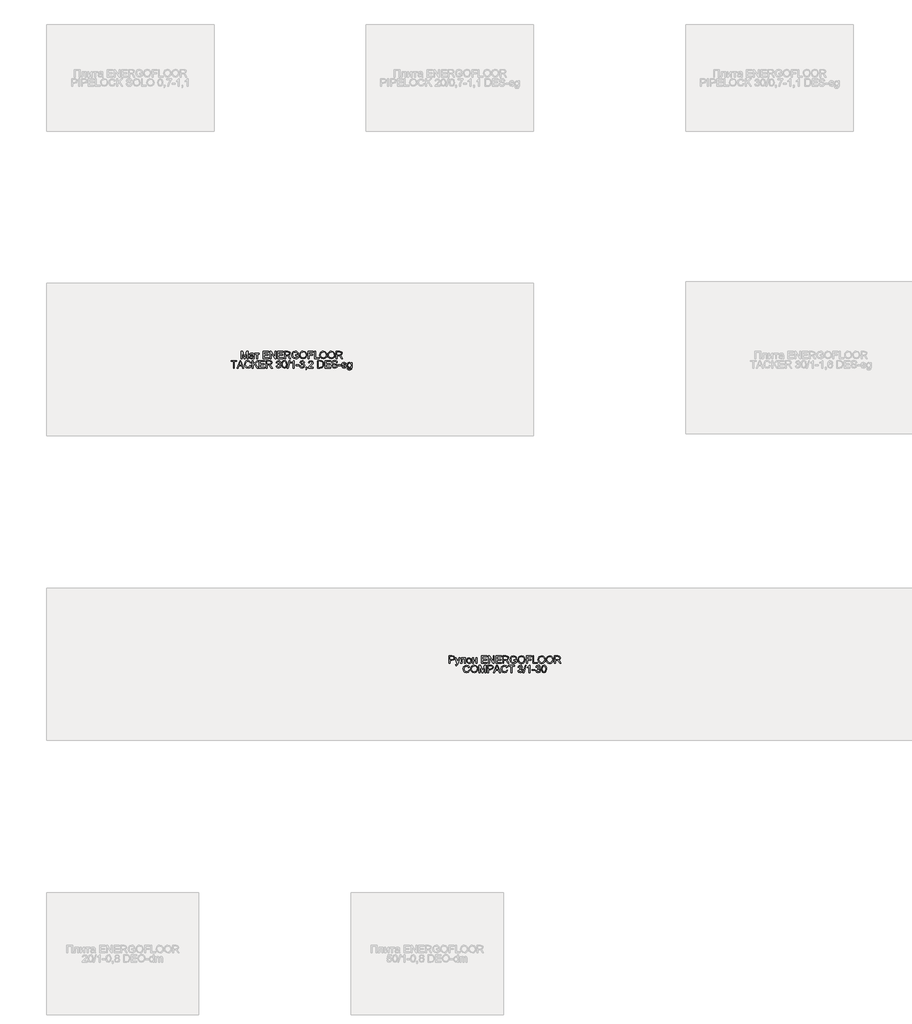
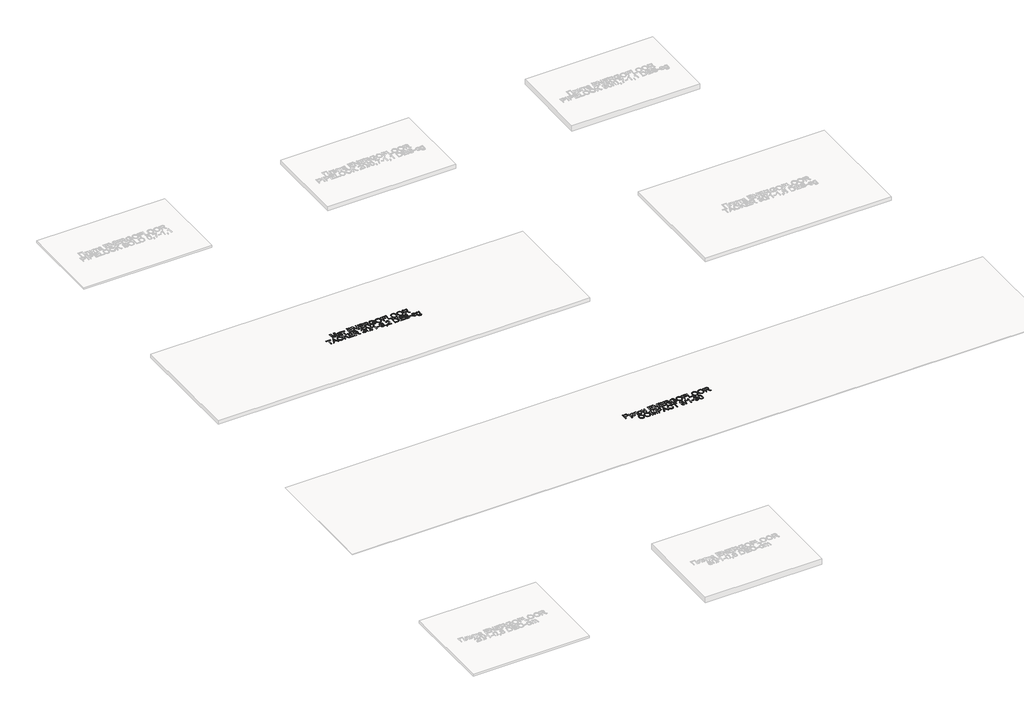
# One storey, part 3 of 7: 2 proxies.
"""IFC4 building model written with IfcOpenShell, lengths in millimetres."""

from ifc_helpers import new_model, si_unit, origin, origin_with_axes, place, context, project, spatial, polyline, outline, extrude, element, save

model = new_model("IFC4")

# Units and contexts
model_context = context("Model", 3, world=origin())
ifc_project = project(units=[si_unit("LENGTHUNIT", "METRE", prefix="MILLI")], contexts=[model_context])

# Site, building, storey
site = spatial("IfcSite", under=ifc_project)
building = spatial("IfcBuilding", under=site)
storey = spatial("IfcBuildingStorey", under=building, Name="Уровень 1", Elevation=0.0)

# Proxies
placement = place(None, origin())
element("IfcBuildingElementProxy", 1, Name="Текст модели ROLS ISOMARKET", ObjectType="Текст модели ROLS ISOMARKET", at=placement, inside=storey, context=model_context, shape_type="SweptSolid", body=[
    extrude(outline(polyline([(-15837.3501564, 9607.5452418), (-15837.3501564, 9656.776011), (-15826.7612141, 9656.776011), (-15816.6890987, 9622.0764918), (-15814.6578487, 9614.8288956), (-15812.4583294, 9622.6774533), (-15802.5544833, 9656.776011), (-15791.965541, 9656.776011), (-15791.965541, 9607.5452418), (-15798.1193871, 9607.5452418), (-15798.1193871, 9650.6221648), (-15810.4871756, 9607.5452418), (-15818.8285218, 9607.5452418), (-15831.1963102, 9650.6221648), (-15831.1963102, 9607.5452418), (-15837.3501564, 9607.5452418)])), origin_with_axes(), (0.0, 0.0, 1.0), 2.0),
    extrude(outline(polyline([(-15758.8886179, 9612.1606264), (-15764.856166, 9607.9899533), (-15771.4487141, 9606.776011), (-15780.3850121, 9609.6966841), (-15783.5040025, 9617.1606264), (-15782.3261179, 9622.0284148), (-15779.231166, 9625.5620687), (-15774.9222718, 9627.5812994), (-15769.5977525, 9628.5067802), (-15758.9246756, 9630.6221648), (-15760.5833294, 9636.5356264), (-15767.3862141, 9638.3144725), (-15773.6121756, 9637.1305783), (-15776.5809256, 9632.9298571), (-15782.7347718, 9633.6990879), (-15780.0725121, 9639.7087033), (-15774.7119352, 9643.2303379), (-15766.5929448, 9644.4683187), (-15759.1350121, 9643.3745687), (-15754.9222718, 9640.6281744), (-15753.0352525, 9636.4514918), (-15752.7347718, 9631.0668764), (-15752.7347718, 9623.4106264), (-15752.4222718, 9612.7195206), (-15751.1963102, 9607.5452418), (-15757.3501564, 9607.5452418), (-15758.8886179, 9612.1606264)]), holes=[polyline([(-15758.8886179, 9624.4683187), (-15768.8165025, 9622.5812994), (-15774.1109737, 9621.5837033), (-15776.5088102, 9619.9611071), (-15777.3501564, 9617.5933187), (-15775.5172237, 9614.2639918), (-15770.1386179, 9612.9298571), (-15763.9126564, 9614.4022129), (-15759.8982333, 9617.9659148), (-15758.9246756, 9622.7255302), (-15758.8886179, 9624.4683187)])]), origin_with_axes(), (0.0, 0.0, 1.0), 2.0),
    extrude(outline(polyline([(-15747.3501564, 9643.6990879), (-15718.1193871, 9643.6990879), (-15718.1193871, 9637.5452418), (-15729.6578487, 9637.5452418), (-15729.6578487, 9607.5452418), (-15735.8116948, 9607.5452418), (-15735.8116948, 9637.5452418), (-15747.3501564, 9637.5452418), (-15747.3501564, 9643.6990879)])), origin_with_axes(), (0.0, 0.0, 1.0), 2.0),
    extrude(outline(polyline([(-15692.7347718, 9607.5452418), (-15692.7347718, 9656.776011), (-15657.3501564, 9656.776011), (-15657.3501564, 9650.6221648), (-15686.5809256, 9650.6221648), (-15686.5809256, 9636.0067802), (-15658.8886179, 9636.0067802), (-15658.8886179, 9629.8529341), (-15686.5809256, 9629.8529341), (-15686.5809256, 9613.6990879), (-15656.5809256, 9613.6990879), (-15656.5809256, 9607.5452418), (-15692.7347718, 9607.5452418)])), origin_with_axes(), (0.0, 0.0, 1.0), 2.0),
    extrude(outline(polyline([(-15647.3501564, 9607.5452418), (-15647.3501564, 9656.776011), (-15640.7636179, 9656.776011), (-15615.0424641, 9617.7736071), (-15615.0424641, 9656.776011), (-15608.8886179, 9656.776011), (-15608.8886179, 9607.5452418), (-15615.4751564, 9607.5452418), (-15641.1963102, 9646.5596648), (-15641.1963102, 9607.5452418), (-15647.3501564, 9607.5452418)])), origin_with_axes(), (0.0, 0.0, 1.0), 2.0),
    extrude(outline(polyline([(-15598.1193871, 9607.5452418), (-15598.1193871, 9656.776011), (-15562.7347718, 9656.776011), (-15562.7347718, 9650.6221648), (-15591.965541, 9650.6221648), (-15591.965541, 9636.0067802), (-15564.2732333, 9636.0067802), (-15564.2732333, 9629.8529341), (-15591.965541, 9629.8529341), (-15591.965541, 9613.6990879), (-15561.965541, 9613.6990879), (-15561.965541, 9607.5452418), (-15598.1193871, 9607.5452418)])), origin_with_axes(), (0.0, 0.0, 1.0), 2.0),
    extrude(outline(polyline([(-15552.7347718, 9607.5452418), (-15552.7347718, 9656.776011), (-15531.5208294, 9656.776011), (-15521.6710698, 9655.447886), (-15516.2864544, 9650.7483668), (-15514.2732333, 9643.3024533), (-15517.6085698, 9634.432261), (-15527.9150602, 9629.8529341), (-15524.4174641, 9627.2207225), (-15519.4294833, 9620.8865879), (-15511.2203487, 9607.5452418), (-15518.371791, 9607.5452418), (-15524.778041, 9617.7495687), (-15529.4054448, 9624.5043764), (-15532.6566468, 9627.6954821), (-15535.5833294, 9628.8673571), (-15539.153041, 9629.0837033), (-15546.5809256, 9629.0837033), (-15546.5809256, 9607.5452418), (-15552.7347718, 9607.5452418)]), holes=[polyline([(-15546.5809256, 9635.2375494), (-15532.8068871, 9635.2375494), (-15525.7816468, 9636.1089437), (-15521.7912621, 9638.8974052), (-15520.4270794, 9643.0740879), (-15523.0292429, 9648.494761), (-15531.2564064, 9650.6221648), (-15546.5809256, 9650.6221648), (-15546.5809256, 9635.2375494)])]), origin_with_axes(), (0.0, 0.0, 1.0), 2.0),
    extrude(outline(polyline([(-15480.4270794, 9626.776011), (-15480.4270794, 9632.9298571), (-15460.4270794, 9632.9298571), (-15460.4270794, 9614.5284148), (-15470.3008775, 9608.7231264), (-15480.7395794, 9606.776011), (-15493.8826083, 9609.8709629), (-15502.8008775, 9618.8312994), (-15505.8116948, 9631.9202418), (-15502.8128968, 9645.3036552), (-15494.1890987, 9654.5284148), (-15481.2323679, 9657.5452418), (-15471.6049641, 9655.7964437), (-15464.856166, 9650.9286552), (-15461.1362141, 9642.7856264), (-15466.809291, 9641.1870687), (-15469.6157814, 9646.8781744), (-15474.4114544, 9650.1594244), (-15481.3285218, 9651.3913956), (-15489.2071275, 9650.0632706), (-15494.5677044, 9646.5776937), (-15497.7347718, 9641.8361071), (-15499.6578487, 9632.1726456), (-15497.3441468, 9621.4454821), (-15490.6133775, 9615.0272129), (-15481.2323679, 9612.9298571), (-15472.8128968, 9614.510386), (-15466.5809256, 9617.8817802), (-15466.5809256, 9626.776011), (-15480.4270794, 9626.776011)])), origin_with_axes(), (0.0, 0.0, 1.0), 2.0),
    extrude(outline(polyline([(-15452.7347718, 9631.5115879), (-15451.0941468, 9642.3980062), (-15446.1722718, 9650.6341841), (-15438.6572477, 9655.8174773), (-15429.2371756, 9657.5452418), (-15416.9895794, 9654.3000494), (-15408.6722718, 9645.2495687), (-15405.8116948, 9632.0764918), (-15408.8225121, 9618.7231264), (-15417.356166, 9609.8048571), (-15429.2732333, 9606.776011), (-15441.653041, 9610.1233668), (-15449.9222718, 9619.2579821), (-15452.7347718, 9631.5115879)]), holes=[polyline([(-15446.5809256, 9631.4514918), (-15441.6590506, 9617.8817802), (-15429.309291, 9612.9298571), (-15416.8513583, 9617.9298571), (-15411.965541, 9632.1245687), (-15414.0568871, 9642.2808187), (-15420.168666, 9649.0055783), (-15429.2011179, 9651.3913956), (-15441.4487141, 9646.7940398), (-15445.2978727, 9640.6597249), (-15446.5809256, 9631.4514918)])]), origin_with_axes(), (0.0, 0.0, 1.0), 2.0),
    extrude(outline(polyline([(-15397.3501564, 9607.5452418), (-15397.3501564, 9656.776011), (-15364.2732333, 9656.776011), (-15364.2732333, 9650.6221648), (-15391.1963102, 9650.6221648), (-15391.1963102, 9636.0067802), (-15368.1193871, 9636.0067802), (-15368.1193871, 9629.8529341), (-15391.1963102, 9629.8529341), (-15391.1963102, 9607.5452418), (-15397.3501564, 9607.5452418)])), origin_with_axes(), (0.0, 0.0, 1.0), 2.0),
    extrude(outline(polyline([(-15355.8116948, 9607.5452418), (-15355.8116948, 9656.776011), (-15349.6578487, 9656.776011), (-15349.6578487, 9613.6990879), (-15325.0424641, 9613.6990879), (-15325.0424641, 9607.5452418), (-15355.8116948, 9607.5452418)])), origin_with_axes(), (0.0, 0.0, 1.0), 2.0),
    extrude(outline(polyline([(-15320.4270794, 9631.5115879), (-15318.7864544, 9642.3980062), (-15313.8645794, 9650.6341841), (-15306.3495554, 9655.8174773), (-15296.9294833, 9657.5452418), (-15284.6818871, 9654.3000494), (-15276.3645794, 9645.2495687), (-15273.5040025, 9632.0764918), (-15276.5148198, 9618.7231264), (-15285.0484737, 9609.8048571), (-15296.965541, 9606.776011), (-15309.3453487, 9610.1233668), (-15317.6145794, 9619.2579821), (-15320.4270794, 9631.5115879)]), holes=[polyline([(-15314.2732333, 9631.4514918), (-15309.3513583, 9617.8817802), (-15297.0015987, 9612.9298571), (-15284.543666, 9617.9298571), (-15279.6578487, 9632.1245687), (-15281.7491948, 9642.2808187), (-15287.8609737, 9649.0055783), (-15296.8934256, 9651.3913956), (-15309.1410218, 9646.7940398), (-15312.9901804, 9640.6597249), (-15314.2732333, 9631.4514918)])]), origin_with_axes(), (0.0, 0.0, 1.0), 2.0),
    extrude(outline(polyline([(-15267.3501564, 9631.5115879), (-15265.7095314, 9642.3980062), (-15260.7876564, 9650.6341841), (-15253.2726323, 9655.8174773), (-15243.8525602, 9657.5452418), (-15231.6049641, 9654.3000494), (-15223.2876564, 9645.2495687), (-15220.4270794, 9632.0764918), (-15223.4378968, 9618.7231264), (-15231.9715506, 9609.8048571), (-15243.8886179, 9606.776011), (-15256.2684256, 9610.1233668), (-15264.5376564, 9619.2579821), (-15267.3501564, 9631.5115879)]), holes=[polyline([(-15261.1963102, 9631.4514918), (-15256.2744352, 9617.8817802), (-15243.9246756, 9612.9298571), (-15231.4667429, 9617.9298571), (-15226.5809256, 9632.1245687), (-15228.6722718, 9642.2808187), (-15234.7840506, 9649.0055783), (-15243.8165025, 9651.3913956), (-15256.0640987, 9646.7940398), (-15259.9132573, 9640.6597249), (-15261.1963102, 9631.4514918)])]), origin_with_axes(), (0.0, 0.0, 1.0), 2.0),
    extrude(outline(polyline([(-15211.965541, 9607.5452418), (-15211.965541, 9656.776011), (-15190.7515987, 9656.776011), (-15180.9018391, 9655.447886), (-15175.5172237, 9650.7483668), (-15173.5040025, 9643.3024533), (-15176.8393391, 9634.432261), (-15187.1458294, 9629.8529341), (-15183.6482333, 9627.2207225), (-15178.6602525, 9620.8865879), (-15170.4511179, 9607.5452418), (-15177.6025602, 9607.5452418), (-15184.0088102, 9617.7495687), (-15188.6362141, 9624.5043764), (-15191.887416, 9627.6954821), (-15194.8140987, 9628.8673571), (-15198.3838102, 9629.0837033), (-15205.8116948, 9629.0837033), (-15205.8116948, 9607.5452418), (-15211.965541, 9607.5452418)]), holes=[polyline([(-15205.8116948, 9635.2375494), (-15192.0376564, 9635.2375494), (-15185.012416, 9636.1089437), (-15181.0220314, 9638.8974052), (-15179.6578487, 9643.0740879), (-15182.2600121, 9648.494761), (-15190.4871756, 9650.6221648), (-15205.8116948, 9650.6221648), (-15205.8116948, 9635.2375494)])]), origin_with_axes(), (0.0, 0.0, 1.0), 2.0),
    extrude(outline(polyline([(-15887.7347718, 9546.776011), (-15887.7347718, 9589.8529341), (-15903.8886179, 9589.8529341), (-15903.8886179, 9596.0067802), (-15865.4270794, 9596.0067802), (-15865.4270794, 9589.8529341), (-15881.5809256, 9589.8529341), (-15881.5809256, 9546.776011), (-15887.7347718, 9546.776011)])), origin_with_axes(), (0.0, 0.0, 1.0), 2.0),
    extrude(outline(polyline([(-15864.2371756, 9546.776011), (-15844.5857333, 9596.0067802), (-15839.3453487, 9596.0067802), (-15819.6939064, 9546.776011), (-15826.1963102, 9546.776011), (-15831.8333294, 9562.1606264), (-15852.1097718, 9562.1606264), (-15857.7347718, 9546.776011), (-15864.2371756, 9546.776011)]), holes=[polyline([(-15849.8501564, 9568.3144725), (-15834.0809256, 9568.3144725), (-15838.5160218, 9580.4178379), (-15841.965541, 9589.8529341), (-15845.0304448, 9581.4755302), (-15849.8501564, 9568.3144725)])]), origin_with_axes(), (0.0, 0.0, 1.0), 2.0),
    extrude(outline(polyline([(-15778.5040025, 9564.276011), (-15772.3501564, 9562.6894725), (-15779.6458294, 9550.2796168), (-15792.5304448, 9546.0067802), (-15805.3369352, 9549.2399533), (-15812.8489544, 9558.6029341), (-15815.4270794, 9571.7639918), (-15812.512416, 9585.1413956), (-15804.2251564, 9593.8132706), (-15792.3982333, 9596.776011), (-15780.0725121, 9592.9418764), (-15773.1193871, 9582.1486071), (-15779.2732333, 9580.682261), (-15784.3213102, 9588.2483668), (-15792.6386179, 9590.6221648), (-15802.2660218, 9587.9899533), (-15807.7047237, 9580.9226456), (-15809.2732333, 9571.776011), (-15807.4162621, 9561.1750494), (-15801.6350121, 9554.4022129), (-15793.1434256, 9552.1606264), (-15783.7263583, 9555.213511), (-15778.5040025, 9564.276011)])), origin_with_axes(), (0.0, 0.0, 1.0), 2.0),
    extrude(outline(polyline([(-15763.8886179, 9546.776011), (-15763.8886179, 9596.0067802), (-15757.7347718, 9596.0067802), (-15757.7347718, 9571.9082225), (-15732.4943871, 9596.0067802), (-15723.8886179, 9596.0067802), (-15745.0785218, 9575.7663956), (-15723.1193871, 9546.776011), (-15730.6434256, 9546.776011), (-15749.4415025, 9571.6077418), (-15757.7347718, 9563.6990879), (-15757.7347718, 9546.776011), (-15763.8886179, 9546.776011)])), origin_with_axes(), (0.0, 0.0, 1.0), 2.0),
    extrude(outline(polyline([(-15718.5040025, 9546.776011), (-15718.5040025, 9596.0067802), (-15683.1193871, 9596.0067802), (-15683.1193871, 9589.8529341), (-15712.3501564, 9589.8529341), (-15712.3501564, 9575.2375494), (-15684.6578487, 9575.2375494), (-15684.6578487, 9569.0837033), (-15712.3501564, 9569.0837033), (-15712.3501564, 9552.9298571), (-15682.3501564, 9552.9298571), (-15682.3501564, 9546.776011), (-15718.5040025, 9546.776011)])), origin_with_axes(), (0.0, 0.0, 1.0), 2.0),
    extrude(outline(polyline([(-15673.1193871, 9546.776011), (-15673.1193871, 9596.0067802), (-15651.9054448, 9596.0067802), (-15642.0556852, 9594.6786552), (-15636.6710698, 9589.979136), (-15634.6578487, 9582.5332225), (-15637.9931852, 9573.6630302), (-15648.2996756, 9569.0837033), (-15644.8020794, 9566.4514918), (-15639.8140987, 9560.1173571), (-15631.6049641, 9546.776011), (-15638.7564064, 9546.776011), (-15645.1626564, 9556.9803379), (-15649.7900602, 9563.7351456), (-15653.0412621, 9566.9262514), (-15655.9679448, 9568.0981264), (-15659.5376564, 9568.3144725), (-15666.965541, 9568.3144725), (-15666.965541, 9546.776011), (-15673.1193871, 9546.776011)]), holes=[polyline([(-15666.965541, 9574.4683187), (-15653.1915025, 9574.4683187), (-15646.1662621, 9575.3397129), (-15642.1758775, 9578.1281744), (-15640.8116948, 9582.3048571), (-15643.4138583, 9587.7255302), (-15651.6410218, 9589.8529341), (-15666.965541, 9589.8529341), (-15666.965541, 9574.4683187)])]), origin_with_axes(), (0.0, 0.0, 1.0), 2.0),
    extrude(outline(polyline([(-15606.965541, 9559.8529341), (-15600.8116948, 9560.6221648), (-15597.4162621, 9554.1437994), (-15591.0640987, 9552.1606264), (-15583.5881371, 9554.8889918), (-15580.8116948, 9561.6437994), (-15583.5640987, 9568.0079821), (-15590.559291, 9570.526011), (-15594.8741948, 9569.8529341), (-15594.1890987, 9576.0067802), (-15586.2203487, 9577.7014918), (-15583.1193871, 9583.1341841), (-15585.3669833, 9587.947886), (-15591.1602525, 9589.8529341), (-15597.0256371, 9587.9298571), (-15600.0424641, 9582.1606264), (-15606.1963102, 9582.9298571), (-15601.1602525, 9592.5812994), (-15591.3765987, 9596.0067802), (-15583.9547237, 9594.3180783), (-15578.762416, 9589.7026937), (-15576.965541, 9583.494761), (-15578.6722718, 9577.8216841), (-15583.7203487, 9573.7471648), (-15577.0136179, 9569.5404341), (-15574.6578487, 9561.5356264), (-15579.3693871, 9550.526011), (-15591.2804448, 9546.0067802), (-15602.0737141, 9549.8649533), (-15606.965541, 9559.8529341)])), origin_with_axes(), (0.0, 0.0, 1.0), 2.0),
    extrude(outline(polyline([(-15569.2732333, 9570.994761), (-15567.4643391, 9585.1594244), (-15562.0917429, 9593.3264918), (-15553.1193871, 9596.0067802), (-15545.9318871, 9594.4202418), (-15540.9679448, 9589.8469244), (-15538.0833294, 9582.5632706), (-15536.965541, 9570.994761), (-15538.7564064, 9556.8901937), (-15544.1109737, 9548.7050975), (-15553.1193871, 9546.0067802), (-15564.3693871, 9550.6942802), (-15568.0472718, 9559.0206023), (-15569.2732333, 9570.994761)]), holes=[polyline([(-15563.1193871, 9571.0067802), (-15560.2347718, 9555.7243283), (-15553.1193871, 9552.1606264), (-15546.0040025, 9555.7363475), (-15543.1193871, 9571.0067802), (-15545.9078487, 9586.1149533), (-15553.1915025, 9589.8529341), (-15560.1386179, 9586.5596648), (-15563.1193871, 9571.0067802)])]), origin_with_axes(), (0.0, 0.0, 1.0), 2.0),
    extrude(outline(polyline([(-15534.6578487, 9546.776011), (-15520.8116948, 9596.0067802), (-15515.2588102, 9596.0067802), (-15529.1049641, 9546.776011), (-15534.6578487, 9546.776011)])), origin_with_axes(), (0.0, 0.0, 1.0), 2.0),
    extrude(outline(polyline([(-15489.2732333, 9546.776011), (-15495.4270794, 9546.776011), (-15495.4270794, 9585.1413956), (-15501.2564064, 9580.9887514), (-15507.7347718, 9577.8817802), (-15507.7347718, 9583.6990879), (-15498.7143391, 9589.4562994), (-15493.2395794, 9596.0067802), (-15489.2732333, 9596.0067802), (-15489.2732333, 9546.776011)])), origin_with_axes(), (0.0, 0.0, 1.0), 2.0),
    extrude(outline(polyline([(-15476.1963102, 9561.3913956), (-15476.1963102, 9567.5452418), (-15456.965541, 9567.5452418), (-15456.965541, 9561.3913956), (-15476.1963102, 9561.3913956)])), origin_with_axes(), (0.0, 0.0, 1.0), 2.0),
    extrude(outline(polyline([(-15451.5809256, 9559.8529341), (-15445.4270794, 9560.6221648), (-15442.0316468, 9554.1437994), (-15435.6794833, 9552.1606264), (-15428.2035218, 9554.8889918), (-15425.4270794, 9561.6437994), (-15428.1794833, 9568.0079821), (-15435.1746756, 9570.526011), (-15439.4895794, 9569.8529341), (-15438.8044833, 9576.0067802), (-15430.8357333, 9577.7014918), (-15427.7347718, 9583.1341841), (-15429.9823679, 9587.947886), (-15435.7756371, 9589.8529341), (-15441.6410218, 9587.9298571), (-15444.6578487, 9582.1606264), (-15450.8116948, 9582.9298571), (-15445.7756371, 9592.5812994), (-15435.9919833, 9596.0067802), (-15428.5701083, 9594.3180783), (-15423.3778006, 9589.7026937), (-15421.5809256, 9583.494761), (-15423.2876564, 9577.8216841), (-15428.3357333, 9573.7471648), (-15421.6290025, 9569.5404341), (-15419.2732333, 9561.5356264), (-15423.9847718, 9550.526011), (-15435.8958294, 9546.0067802), (-15446.6890987, 9549.8649533), (-15451.5809256, 9559.8529341)])), origin_with_axes(), (0.0, 0.0, 1.0), 2.0),
    extrude(outline(polyline([(-15410.8116948, 9546.776011), (-15410.8116948, 9552.9298571), (-15404.6578487, 9552.9298571), (-15404.6578487, 9546.776011), (-15405.7636179, 9540.4839437), (-15409.2732333, 9536.776011), (-15410.8116948, 9539.0837033), (-15408.5520794, 9541.7399533), (-15407.746791, 9546.776011), (-15410.8116948, 9546.776011)])), origin_with_axes(), (0.0, 0.0, 1.0), 2.0),
    extrude(outline(polyline([(-15363.1193871, 9552.9298571), (-15363.1193871, 9546.776011), (-15395.4270794, 9546.776011), (-15394.7660218, 9551.0187994), (-15391.028041, 9557.5512514), (-15383.3237141, 9564.6846648), (-15372.6987141, 9574.9370687), (-15370.0424641, 9581.9082225), (-15372.5484737, 9587.5512514), (-15379.0929448, 9589.8529341), (-15385.9138583, 9587.6053379), (-15388.5040025, 9581.3913956), (-15394.6578487, 9582.1606264), (-15389.9403006, 9592.4611071), (-15378.9607333, 9596.0067802), (-15367.9451083, 9592.0644725), (-15363.8886179, 9582.2808187), (-15364.9823679, 9576.4454821), (-15368.6181852, 9570.4118283), (-15377.434291, 9561.9803379), (-15384.5136179, 9556.0608668), (-15387.2900602, 9552.9298571), (-15363.1193871, 9552.9298571)])), origin_with_axes(), (0.0, 0.0, 1.0), 2.0),
    extrude(outline(polyline([(-15335.4270794, 9546.776011), (-15335.4270794, 9596.0067802), (-15318.4439064, 9596.0067802), (-15309.6578487, 9595.2976456), (-15302.4222718, 9591.776011), (-15296.5929448, 9583.3625494), (-15294.6578487, 9571.6558187), (-15295.9679448, 9561.7219244), (-15299.3333294, 9554.5524533), (-15303.8285218, 9550.0873091), (-15309.7119352, 9547.6173571), (-15317.6265987, 9546.776011), (-15335.4270794, 9546.776011)]), holes=[polyline([(-15329.2732333, 9552.9298571), (-15318.3838102, 9552.9298571), (-15310.4631371, 9553.8192802), (-15305.8958294, 9556.3312994), (-15302.1518391, 9562.4430783), (-15300.8116948, 9571.7519725), (-15303.4378968, 9583.4106264), (-15309.8261179, 9588.8673571), (-15318.5520794, 9589.8529341), (-15329.2732333, 9589.8529341), (-15329.2732333, 9552.9298571)])]), origin_with_axes(), (0.0, 0.0, 1.0), 2.0),
    extrude(outline(polyline([(-15286.1963102, 9546.776011), (-15286.1963102, 9596.0067802), (-15250.8116948, 9596.0067802), (-15250.8116948, 9589.8529341), (-15280.0424641, 9589.8529341), (-15280.0424641, 9575.2375494), (-15252.3501564, 9575.2375494), (-15252.3501564, 9569.0837033), (-15280.0424641, 9569.0837033), (-15280.0424641, 9552.9298571), (-15250.0424641, 9552.9298571), (-15250.0424641, 9546.776011), (-15286.1963102, 9546.776011)])), origin_with_axes(), (0.0, 0.0, 1.0), 2.0),
    extrude(outline(polyline([(-15243.1193871, 9563.6990879), (-15236.965541, 9563.6990879), (-15234.9823679, 9557.5392321), (-15230.1386179, 9553.6450014), (-15222.7588102, 9552.1606264), (-15216.3285218, 9553.2844244), (-15212.1758775, 9556.3733668), (-15210.8116948, 9560.5019725), (-15211.8333294, 9564.3421168), (-15216.0160218, 9567.1365879), (-15224.9763583, 9569.4863475), (-15234.621791, 9572.5212033), (-15239.856166, 9577.1005302), (-15241.5809256, 9583.2183187), (-15239.4475121, 9590.1834629), (-15233.215541, 9595.0993283), (-15224.0929448, 9596.776011), (-15214.3573679, 9595.0212033), (-15207.8669833, 9589.8649533), (-15205.4270794, 9582.1606264), (-15211.5809256, 9582.1606264), (-15215.0665025, 9588.4827418), (-15223.8525602, 9590.6221648), (-15232.6626564, 9588.5067802), (-15235.4270794, 9583.3986071), (-15233.4679448, 9579.1317802), (-15223.4198679, 9575.6942802), (-15212.5304448, 9572.6053379), (-15206.574916, 9567.6173571), (-15204.6578487, 9560.6582225), (-15206.8633775, 9553.2964437), (-15213.2095314, 9547.9238475), (-15222.5184256, 9546.0067802), (-15233.5100121, 9548.0740879), (-15240.4631371, 9554.3000494), (-15243.1193871, 9563.6990879)])), origin_with_axes(), (0.0, 0.0, 1.0), 2.0),
    extrude(outline(polyline([(-15199.2732333, 9561.3913956), (-15199.2732333, 9567.5452418), (-15180.0424641, 9567.5452418), (-15180.0424641, 9561.3913956), (-15199.2732333, 9561.3913956)])), origin_with_axes(), (0.0, 0.0, 1.0), 2.0),
    extrude(outline(polyline([(-15175.4270794, 9557.5452418), (-15169.2732333, 9558.3144725), (-15166.4246756, 9553.7471648), (-15159.8982333, 9552.1606264), (-15153.6241948, 9553.6149533), (-15151.5809256, 9557.0284148), (-15153.6362141, 9559.7928379), (-15159.9703487, 9561.5476456), (-15169.2371756, 9564.5584629), (-15173.2816468, 9568.0740879), (-15174.6578487, 9573.0380302), (-15173.5520794, 9577.6233668), (-15170.5352525, 9581.1269725), (-15166.6229929, 9582.947886), (-15161.3285218, 9583.6990879), (-15153.840541, 9582.4911552), (-15149.0809256, 9579.2219244), (-15146.965541, 9573.6990879), (-15153.1193871, 9572.9298571), (-15155.4330891, 9576.3252898), (-15160.8477525, 9577.5452418), (-15166.7371756, 9576.3793764), (-15168.5040025, 9573.6630302), (-15167.7708294, 9571.8721648), (-15165.4751564, 9570.5139918), (-15160.1746756, 9569.2038956), (-15151.1422237, 9566.307261), (-15146.9475121, 9563.026011), (-15145.4270794, 9557.6774533), (-15147.2119352, 9551.7880302), (-15152.3621756, 9547.5151937), (-15159.9823679, 9546.0067802), (-15170.715541, 9548.9154341), (-15175.4270794, 9557.5452418)])), origin_with_axes(), (0.0, 0.0, 1.0), 2.0),
    extrude(outline(polyline([(-15140.0424641, 9543.6990879), (-15133.8886179, 9542.9298571), (-15131.8934256, 9539.6846648), (-15125.9198679, 9538.3144725), (-15119.621791, 9539.8649533), (-15116.6169833, 9544.2159148), (-15116.1963102, 9551.3913956), (-15125.8116948, 9546.776011), (-15136.887416, 9552.1486071), (-15140.8116948, 9565.0332225), (-15139.0508775, 9574.5704821), (-15133.9547237, 9581.3192802), (-15126.1121756, 9583.6990879), (-15116.1963102, 9578.3144725), (-15116.1963102, 9582.9298571), (-15110.0424641, 9582.9298571), (-15110.0424641, 9551.7159148), (-15111.7251564, 9539.7627898), (-15117.0556852, 9534.2038956), (-15126.0400602, 9532.1606264), (-15136.2744352, 9535.0392321), (-15140.0424641, 9543.6990879)]), holes=[polyline([(-15134.6578487, 9565.4538956), (-15132.0316468, 9555.9286552), (-15125.4390987, 9552.9298571), (-15118.8585698, 9555.9106264), (-15116.1963102, 9565.2736071), (-15118.9366948, 9574.4502898), (-15125.5352525, 9577.5452418), (-15131.9955891, 9574.4983668), (-15134.6578487, 9565.4538956)])]), origin_with_axes(), (0.0, 0.0, 1.0), 2.0),
])
element("IfcBuildingElementProxy", 2, Name="Текст модели ROLS ISOMARKET", ObjectType="Текст модели ROLS ISOMARKET", at=placement, inside=storey, context=model_context, shape_type="SweptSolid", body=[
    extrude(outline(polyline([(-14471.5809256, 7607.5452418), (-14471.5809256, 7656.776011), (-14453.3357333, 7656.776011), (-14445.9799641, 7656.307261), (-14440.0003968, 7654.0055783), (-14436.1241948, 7649.2459629), (-14434.6578487, 7642.5332225), (-14438.6181852, 7631.8962033), (-14452.9150602, 7627.5452418), (-14465.4270794, 7627.5452418), (-14465.4270794, 7607.5452418), (-14471.5809256, 7607.5452418)]), holes=[polyline([(-14465.4270794, 7633.6990879), (-14452.5544833, 7633.6990879), (-14443.4919833, 7635.9587033), (-14440.8116948, 7642.3168764), (-14442.3922237, 7647.4130302), (-14446.5448679, 7650.2014918), (-14452.6987141, 7650.6221648), (-14465.4270794, 7650.6221648), (-14465.4270794, 7633.6990879)])]), origin_with_axes(), (0.0, 0.0, 1.0), 2.0),
    extrude(outline(polyline([(-14426.965541, 7593.6990879), (-14427.7347718, 7599.6245687), (-14424.6097718, 7599.0837033), (-14421.6890987, 7599.7627898), (-14419.8982333, 7601.6558187), (-14418.215541, 7606.1870687), (-14430.8116948, 7643.6990879), (-14424.3213102, 7643.6990879), (-14417.3862141, 7623.6269725), (-14414.9703487, 7615.5981264), (-14412.5544833, 7622.6894725), (-14405.4270794, 7643.6990879), (-14398.9847718, 7643.6990879), (-14411.5689064, 7606.6798571), (-14414.8381371, 7598.651011), (-14418.4078487, 7594.3120687), (-14423.2035218, 7592.9298571), (-14426.965541, 7593.6990879)])), origin_with_axes(), (0.0, 0.0, 1.0), 2.0),
    extrude(outline(polyline([(-14390.8116948, 7643.6990879), (-14363.1193871, 7643.6990879), (-14363.1193871, 7607.5812994), (-14369.2732333, 7607.5812994), (-14369.2732333, 7637.5452418), (-14384.6578487, 7637.5452418), (-14384.6578487, 7620.2976456), (-14385.0725121, 7612.3409148), (-14387.3501564, 7608.9815398), (-14392.7347718, 7607.5452418), (-14397.7347718, 7607.8577418), (-14397.7347718, 7613.6990879), (-14394.9823679, 7613.6990879), (-14392.199916, 7614.0776937), (-14391.0881371, 7615.2796168), (-14390.8116948, 7620.6462033), (-14390.8116948, 7643.6990879)])), origin_with_axes(), (0.0, 0.0, 1.0), 2.0),
    extrude(outline(polyline([(-14355.4270794, 7625.6221648), (-14354.0959496, 7634.3391119), (-14350.1025602, 7640.4659148), (-14339.2612141, 7644.4683187), (-14327.6326083, 7639.5945206), (-14323.1193871, 7626.1269725), (-14325.1145794, 7615.1774533), (-14330.9258775, 7608.9815398), (-14339.2612141, 7606.776011), (-14350.9619352, 7611.6317802), (-14355.4270794, 7625.6221648)]), holes=[polyline([(-14349.2732333, 7625.6341841), (-14346.4246756, 7616.0969244), (-14339.2612141, 7612.9298571), (-14332.121791, 7616.1149533), (-14329.2732333, 7625.8264918), (-14332.1398198, 7635.1474052), (-14339.2612141, 7638.3144725), (-14346.4246756, 7635.1594244), (-14349.2732333, 7625.6341841)])]), origin_with_axes(), (0.0, 0.0, 1.0), 2.0),
    extrude(outline(polyline([(-14316.1963102, 7643.6990879), (-14310.0424641, 7643.6990879), (-14310.0424641, 7629.8529341), (-14293.8886179, 7629.8529341), (-14293.8886179, 7643.6990879), (-14287.7347718, 7643.6990879), (-14287.7347718, 7607.5452418), (-14293.8886179, 7607.5452418), (-14293.8886179, 7623.6990879), (-14310.0424641, 7623.6990879), (-14310.0424641, 7607.5452418), (-14316.1963102, 7607.5452418), (-14316.1963102, 7643.6990879)])), origin_with_axes(), (0.0, 0.0, 1.0), 2.0),
    extrude(outline(polyline([(-14258.5040025, 7607.5452418), (-14258.5040025, 7656.776011), (-14223.1193871, 7656.776011), (-14223.1193871, 7650.6221648), (-14252.3501564, 7650.6221648), (-14252.3501564, 7636.0067802), (-14224.6578487, 7636.0067802), (-14224.6578487, 7629.8529341), (-14252.3501564, 7629.8529341), (-14252.3501564, 7613.6990879), (-14222.3501564, 7613.6990879), (-14222.3501564, 7607.5452418), (-14258.5040025, 7607.5452418)])), origin_with_axes(), (0.0, 0.0, 1.0), 2.0),
    extrude(outline(polyline([(-14213.1193871, 7607.5452418), (-14213.1193871, 7656.776011), (-14206.5328487, 7656.776011), (-14180.8116948, 7617.7736071), (-14180.8116948, 7656.776011), (-14174.6578487, 7656.776011), (-14174.6578487, 7607.5452418), (-14181.2443871, 7607.5452418), (-14206.965541, 7646.5596648), (-14206.965541, 7607.5452418), (-14213.1193871, 7607.5452418)])), origin_with_axes(), (0.0, 0.0, 1.0), 2.0),
    extrude(outline(polyline([(-14163.8886179, 7607.5452418), (-14163.8886179, 7656.776011), (-14128.5040025, 7656.776011), (-14128.5040025, 7650.6221648), (-14157.7347718, 7650.6221648), (-14157.7347718, 7636.0067802), (-14130.0424641, 7636.0067802), (-14130.0424641, 7629.8529341), (-14157.7347718, 7629.8529341), (-14157.7347718, 7613.6990879), (-14127.7347718, 7613.6990879), (-14127.7347718, 7607.5452418), (-14163.8886179, 7607.5452418)])), origin_with_axes(), (0.0, 0.0, 1.0), 2.0),
    extrude(outline(polyline([(-14118.5040025, 7607.5452418), (-14118.5040025, 7656.776011), (-14097.2900602, 7656.776011), (-14087.4403006, 7655.447886), (-14082.0556852, 7650.7483668), (-14080.0424641, 7643.3024533), (-14083.3778006, 7634.432261), (-14093.684291, 7629.8529341), (-14090.1866948, 7627.2207225), (-14085.1987141, 7620.8865879), (-14076.9895794, 7607.5452418), (-14084.1410218, 7607.5452418), (-14090.5472718, 7617.7495687), (-14095.1746756, 7624.5043764), (-14098.4258775, 7627.6954821), (-14101.3525602, 7628.8673571), (-14104.9222718, 7629.0837033), (-14112.3501564, 7629.0837033), (-14112.3501564, 7607.5452418), (-14118.5040025, 7607.5452418)]), holes=[polyline([(-14112.3501564, 7635.2375494), (-14098.5761179, 7635.2375494), (-14091.5508775, 7636.1089437), (-14087.5604929, 7638.8974052), (-14086.1963102, 7643.0740879), (-14088.7984737, 7648.494761), (-14097.0256371, 7650.6221648), (-14112.3501564, 7650.6221648), (-14112.3501564, 7635.2375494)])]), origin_with_axes(), (0.0, 0.0, 1.0), 2.0),
    extrude(outline(polyline([(-14046.1963102, 7626.776011), (-14046.1963102, 7632.9298571), (-14026.1963102, 7632.9298571), (-14026.1963102, 7614.5284148), (-14036.0701083, 7608.7231264), (-14046.5088102, 7606.776011), (-14059.6518391, 7609.8709629), (-14068.5701083, 7618.8312994), (-14071.5809256, 7631.9202418), (-14068.5821275, 7645.3036552), (-14059.9583294, 7654.5284148), (-14047.0015987, 7657.5452418), (-14037.3741948, 7655.7964437), (-14030.6253968, 7650.9286552), (-14026.9054448, 7642.7856264), (-14032.5785218, 7641.1870687), (-14035.3850121, 7646.8781744), (-14040.1806852, 7650.1594244), (-14047.0977525, 7651.3913956), (-14054.9763583, 7650.0632706), (-14060.3369352, 7646.5776937), (-14063.5040025, 7641.8361071), (-14065.4270794, 7632.1726456), (-14063.1133775, 7621.4454821), (-14056.3826083, 7615.0272129), (-14047.0015987, 7612.9298571), (-14038.5821275, 7614.510386), (-14032.3501564, 7617.8817802), (-14032.3501564, 7626.776011), (-14046.1963102, 7626.776011)])), origin_with_axes(), (0.0, 0.0, 1.0), 2.0),
    extrude(outline(polyline([(-14018.5040025, 7631.5115879), (-14016.8633775, 7642.3980062), (-14011.9415025, 7650.6341841), (-14004.4264785, 7655.8174773), (-13995.0064064, 7657.5452418), (-13982.7588102, 7654.3000494), (-13974.4415025, 7645.2495687), (-13971.5809256, 7632.0764918), (-13974.5917429, 7618.7231264), (-13983.1253968, 7609.8048571), (-13995.0424641, 7606.776011), (-14007.4222718, 7610.1233668), (-14015.6915025, 7619.2579821), (-14018.5040025, 7631.5115879)]), holes=[polyline([(-14012.3501564, 7631.4514918), (-14007.4282814, 7617.8817802), (-13995.0785218, 7612.9298571), (-13982.6205891, 7617.9298571), (-13977.7347718, 7632.1245687), (-13979.8261179, 7642.2808187), (-13985.9378968, 7649.0055783), (-13994.9703487, 7651.3913956), (-14007.2179448, 7646.7940398), (-14011.0671035, 7640.6597249), (-14012.3501564, 7631.4514918)])]), origin_with_axes(), (0.0, 0.0, 1.0), 2.0),
    extrude(outline(polyline([(-13963.1193871, 7607.5452418), (-13963.1193871, 7656.776011), (-13930.0424641, 7656.776011), (-13930.0424641, 7650.6221648), (-13956.965541, 7650.6221648), (-13956.965541, 7636.0067802), (-13933.8886179, 7636.0067802), (-13933.8886179, 7629.8529341), (-13956.965541, 7629.8529341), (-13956.965541, 7607.5452418), (-13963.1193871, 7607.5452418)])), origin_with_axes(), (0.0, 0.0, 1.0), 2.0),
    extrude(outline(polyline([(-13921.5809256, 7607.5452418), (-13921.5809256, 7656.776011), (-13915.4270794, 7656.776011), (-13915.4270794, 7613.6990879), (-13890.8116948, 7613.6990879), (-13890.8116948, 7607.5452418), (-13921.5809256, 7607.5452418)])), origin_with_axes(), (0.0, 0.0, 1.0), 2.0),
    extrude(outline(polyline([(-13886.1963102, 7631.5115879), (-13884.5556852, 7642.3980062), (-13879.6338102, 7650.6341841), (-13872.1187862, 7655.8174773), (-13862.6987141, 7657.5452418), (-13850.4511179, 7654.3000494), (-13842.1338102, 7645.2495687), (-13839.2732333, 7632.0764918), (-13842.2840506, 7618.7231264), (-13850.8177044, 7609.8048571), (-13862.7347718, 7606.776011), (-13875.1145794, 7610.1233668), (-13883.3838102, 7619.2579821), (-13886.1963102, 7631.5115879)]), holes=[polyline([(-13880.0424641, 7631.4514918), (-13875.1205891, 7617.8817802), (-13862.7708294, 7612.9298571), (-13850.3128968, 7617.9298571), (-13845.4270794, 7632.1245687), (-13847.5184256, 7642.2808187), (-13853.6302044, 7649.0055783), (-13862.6626564, 7651.3913956), (-13874.9102525, 7646.7940398), (-13878.7594112, 7640.6597249), (-13880.0424641, 7631.4514918)])]), origin_with_axes(), (0.0, 0.0, 1.0), 2.0),
    extrude(outline(polyline([(-13833.1193871, 7631.5115879), (-13831.4787621, 7642.3980062), (-13826.5568871, 7650.6341841), (-13819.0418631, 7655.8174773), (-13809.621791, 7657.5452418), (-13797.3741948, 7654.3000494), (-13789.0568871, 7645.2495687), (-13786.1963102, 7632.0764918), (-13789.2071275, 7618.7231264), (-13797.7407814, 7609.8048571), (-13809.6578487, 7606.776011), (-13822.0376564, 7610.1233668), (-13830.3068871, 7619.2579821), (-13833.1193871, 7631.5115879)]), holes=[polyline([(-13826.965541, 7631.4514918), (-13822.043666, 7617.8817802), (-13809.6939064, 7612.9298571), (-13797.2359737, 7617.9298571), (-13792.3501564, 7632.1245687), (-13794.4415025, 7642.2808187), (-13800.5532814, 7649.0055783), (-13809.5857333, 7651.3913956), (-13821.8333294, 7646.7940398), (-13825.6824881, 7640.6597249), (-13826.965541, 7631.4514918)])]), origin_with_axes(), (0.0, 0.0, 1.0), 2.0),
    extrude(outline(polyline([(-13777.7347718, 7607.5452418), (-13777.7347718, 7656.776011), (-13756.5208294, 7656.776011), (-13746.6710698, 7655.447886), (-13741.2864544, 7650.7483668), (-13739.2732333, 7643.3024533), (-13742.6085698, 7634.432261), (-13752.9150602, 7629.8529341), (-13749.4174641, 7627.2207225), (-13744.4294833, 7620.8865879), (-13736.2203487, 7607.5452418), (-13743.371791, 7607.5452418), (-13749.778041, 7617.7495687), (-13754.4054448, 7624.5043764), (-13757.6566468, 7627.6954821), (-13760.5833294, 7628.8673571), (-13764.153041, 7629.0837033), (-13771.5809256, 7629.0837033), (-13771.5809256, 7607.5452418), (-13777.7347718, 7607.5452418)]), holes=[polyline([(-13771.5809256, 7635.2375494), (-13757.8068871, 7635.2375494), (-13750.7816468, 7636.1089437), (-13746.7912621, 7638.8974052), (-13745.4270794, 7643.0740879), (-13748.0292429, 7648.494761), (-13756.2564064, 7650.6221648), (-13771.5809256, 7650.6221648), (-13771.5809256, 7635.2375494)])]), origin_with_axes(), (0.0, 0.0, 1.0), 2.0),
    extrude(outline(polyline([(-14341.5809256, 7564.276011), (-14335.4270794, 7562.6894725), (-14342.7227525, 7550.2796168), (-14355.6073679, 7546.0067802), (-14368.4138583, 7549.2399533), (-14375.9258775, 7558.6029341), (-14378.5040025, 7571.7639918), (-14375.5893391, 7585.1413956), (-14367.3020794, 7593.8132706), (-14355.4751564, 7596.776011), (-14343.1494352, 7592.9418764), (-14336.1963102, 7582.1486071), (-14342.3501564, 7580.682261), (-14347.3982333, 7588.2483668), (-14355.715541, 7590.6221648), (-14365.3429448, 7587.9899533), (-14370.7816468, 7580.9226456), (-14372.3501564, 7571.776011), (-14370.4931852, 7561.1750494), (-14364.7119352, 7554.4022129), (-14356.2203487, 7552.1606264), (-14346.8032814, 7555.213511), (-14341.5809256, 7564.276011)])), origin_with_axes(), (0.0, 0.0, 1.0), 2.0),
    extrude(outline(polyline([(-14329.2732333, 7570.7423571), (-14327.6326083, 7581.6287754), (-14322.7107333, 7589.8649533), (-14315.1957093, 7595.0482466), (-14305.7756371, 7596.776011), (-14293.528041, 7593.5308187), (-14285.2107333, 7584.4803379), (-14282.3501564, 7571.307261), (-14285.3609737, 7557.9538956), (-14293.8946275, 7549.0356264), (-14305.8116948, 7546.0067802), (-14318.1915025, 7549.354136), (-14326.4607333, 7558.4887514), (-14329.2732333, 7570.7423571)]), holes=[polyline([(-14323.1193871, 7570.682261), (-14318.1975121, 7557.1125494), (-14305.8477525, 7552.1606264), (-14293.3898198, 7557.1606264), (-14288.5040025, 7571.3553379), (-14290.5953487, 7581.5115879), (-14296.7071275, 7588.2363475), (-14305.7395794, 7590.6221648), (-14317.9871756, 7586.0248091), (-14321.8363343, 7579.8904942), (-14323.1193871, 7570.682261)])]), origin_with_axes(), (0.0, 0.0, 1.0), 2.0),
    extrude(outline(polyline([(-14273.8886179, 7546.776011), (-14273.8886179, 7596.0067802), (-14263.2996756, 7596.0067802), (-14253.2275602, 7561.307261), (-14251.1963102, 7554.0596648), (-14248.996791, 7561.9082225), (-14239.0929448, 7596.0067802), (-14228.5040025, 7596.0067802), (-14228.5040025, 7546.776011), (-14234.6578487, 7546.776011), (-14234.6578487, 7589.8529341), (-14247.0256371, 7546.776011), (-14255.3669833, 7546.776011), (-14267.7347718, 7589.8529341), (-14267.7347718, 7546.776011), (-14273.8886179, 7546.776011)])), origin_with_axes(), (0.0, 0.0, 1.0), 2.0),
    extrude(outline(polyline([(-14217.7347718, 7546.776011), (-14217.7347718, 7596.0067802), (-14199.4895794, 7596.0067802), (-14192.1338102, 7595.5380302), (-14186.1542429, 7593.2363475), (-14182.278041, 7588.4767321), (-14180.8116948, 7581.7639918), (-14184.7720314, 7571.1269725), (-14199.0689064, 7566.776011), (-14211.5809256, 7566.776011), (-14211.5809256, 7546.776011), (-14217.7347718, 7546.776011)]), holes=[polyline([(-14211.5809256, 7572.9298571), (-14198.7083294, 7572.9298571), (-14189.6458294, 7575.1894725), (-14186.965541, 7581.5476456), (-14188.5460698, 7586.6437994), (-14192.6987141, 7589.432261), (-14198.8525602, 7589.8529341), (-14211.5809256, 7589.8529341), (-14211.5809256, 7572.9298571)])]), origin_with_axes(), (0.0, 0.0, 1.0), 2.0),
    extrude(outline(polyline([(-14178.0833294, 7546.776011), (-14158.4318871, 7596.0067802), (-14153.1915025, 7596.0067802), (-14133.5400602, 7546.776011), (-14140.0424641, 7546.776011), (-14145.6794833, 7562.1606264), (-14165.9559256, 7562.1606264), (-14171.5809256, 7546.776011), (-14178.0833294, 7546.776011)]), holes=[polyline([(-14163.6963102, 7568.3144725), (-14147.9270794, 7568.3144725), (-14152.3621756, 7580.4178379), (-14155.8116948, 7589.8529341), (-14158.8765987, 7581.4755302), (-14163.6963102, 7568.3144725)])]), origin_with_axes(), (0.0, 0.0, 1.0), 2.0),
    extrude(outline(polyline([(-14092.3501564, 7564.276011), (-14086.1963102, 7562.6894725), (-14093.4919833, 7550.2796168), (-14106.3765987, 7546.0067802), (-14119.1830891, 7549.2399533), (-14126.6951083, 7558.6029341), (-14129.2732333, 7571.7639918), (-14126.3585698, 7585.1413956), (-14118.0713102, 7593.8132706), (-14106.2443871, 7596.776011), (-14093.918666, 7592.9418764), (-14086.965541, 7582.1486071), (-14093.1193871, 7580.682261), (-14098.1674641, 7588.2483668), (-14106.4847718, 7590.6221648), (-14116.1121756, 7587.9899533), (-14121.5508775, 7580.9226456), (-14123.1193871, 7571.776011), (-14121.262416, 7561.1750494), (-14115.481166, 7554.4022129), (-14106.9895794, 7552.1606264), (-14097.5725121, 7555.213511), (-14092.3501564, 7564.276011)])), origin_with_axes(), (0.0, 0.0, 1.0), 2.0),
    extrude(outline(polyline([(-14065.4270794, 7546.776011), (-14065.4270794, 7589.8529341), (-14081.5809256, 7589.8529341), (-14081.5809256, 7596.0067802), (-14043.1193871, 7596.0067802), (-14043.1193871, 7589.8529341), (-14059.2732333, 7589.8529341), (-14059.2732333, 7546.776011), (-14065.4270794, 7546.776011)])), origin_with_axes(), (0.0, 0.0, 1.0), 2.0),
    extrude(outline(polyline([(-14019.2732333, 7559.8529341), (-14013.1193871, 7560.6221648), (-14009.7239544, 7554.1437994), (-14003.371791, 7552.1606264), (-13995.8958294, 7554.8889918), (-13993.1193871, 7561.6437994), (-13995.871791, 7568.0079821), (-14002.8669833, 7570.526011), (-14007.1818871, 7569.8529341), (-14006.496791, 7576.0067802), (-13998.528041, 7577.7014918), (-13995.4270794, 7583.1341841), (-13997.6746756, 7587.947886), (-14003.4679448, 7589.8529341), (-14009.3333294, 7587.9298571), (-14012.3501564, 7582.1606264), (-14018.5040025, 7582.9298571), (-14013.4679448, 7592.5812994), (-14003.684291, 7596.0067802), (-13996.262416, 7594.3180783), (-13991.0701083, 7589.7026937), (-13989.2732333, 7583.494761), (-13990.9799641, 7577.8216841), (-13996.028041, 7573.7471648), (-13989.3213102, 7569.5404341), (-13986.965541, 7561.5356264), (-13991.6770794, 7550.526011), (-14003.5881371, 7546.0067802), (-14014.3814064, 7549.8649533), (-14019.2732333, 7559.8529341)])), origin_with_axes(), (0.0, 0.0, 1.0), 2.0),
    extrude(outline(polyline([(-13984.6578487, 7546.776011), (-13970.8116948, 7596.0067802), (-13965.2588102, 7596.0067802), (-13979.1049641, 7546.776011), (-13984.6578487, 7546.776011)])), origin_with_axes(), (0.0, 0.0, 1.0), 2.0),
    extrude(outline(polyline([(-13939.2732333, 7546.776011), (-13945.4270794, 7546.776011), (-13945.4270794, 7585.1413956), (-13951.2564064, 7580.9887514), (-13957.7347718, 7577.8817802), (-13957.7347718, 7583.6990879), (-13948.7143391, 7589.4562994), (-13943.2395794, 7596.0067802), (-13939.2732333, 7596.0067802), (-13939.2732333, 7546.776011)])), origin_with_axes(), (0.0, 0.0, 1.0), 2.0),
    extrude(outline(polyline([(-13926.1963102, 7561.3913956), (-13926.1963102, 7567.5452418), (-13906.965541, 7567.5452418), (-13906.965541, 7561.3913956), (-13926.1963102, 7561.3913956)])), origin_with_axes(), (0.0, 0.0, 1.0), 2.0),
    extrude(outline(polyline([(-13901.5809256, 7559.8529341), (-13895.4270794, 7560.6221648), (-13892.0316468, 7554.1437994), (-13885.6794833, 7552.1606264), (-13878.2035218, 7554.8889918), (-13875.4270794, 7561.6437994), (-13878.1794833, 7568.0079821), (-13885.1746756, 7570.526011), (-13889.4895794, 7569.8529341), (-13888.8044833, 7576.0067802), (-13880.8357333, 7577.7014918), (-13877.7347718, 7583.1341841), (-13879.9823679, 7587.947886), (-13885.7756371, 7589.8529341), (-13891.6410218, 7587.9298571), (-13894.6578487, 7582.1606264), (-13900.8116948, 7582.9298571), (-13895.7756371, 7592.5812994), (-13885.9919833, 7596.0067802), (-13878.5701083, 7594.3180783), (-13873.3778006, 7589.7026937), (-13871.5809256, 7583.494761), (-13873.2876564, 7577.8216841), (-13878.3357333, 7573.7471648), (-13871.6290025, 7569.5404341), (-13869.2732333, 7561.5356264), (-13873.9847718, 7550.526011), (-13885.8958294, 7546.0067802), (-13896.6890987, 7549.8649533), (-13901.5809256, 7559.8529341)])), origin_with_axes(), (0.0, 0.0, 1.0), 2.0),
    extrude(outline(polyline([(-13863.8886179, 7570.994761), (-13862.0797237, 7585.1594244), (-13856.7071275, 7593.3264918), (-13847.7347718, 7596.0067802), (-13840.5472718, 7594.4202418), (-13835.5833294, 7589.8469244), (-13832.6987141, 7582.5632706), (-13831.5809256, 7570.994761), (-13833.371791, 7556.8901937), (-13838.7263583, 7548.7050975), (-13847.7347718, 7546.0067802), (-13858.9847718, 7550.6942802), (-13862.6626564, 7559.0206023), (-13863.8886179, 7570.994761)]), holes=[polyline([(-13857.7347718, 7571.0067802), (-13854.8501564, 7555.7243283), (-13847.7347718, 7552.1606264), (-13840.6193871, 7555.7363475), (-13837.7347718, 7571.0067802), (-13840.5232333, 7586.1149533), (-13847.8068871, 7589.8529341), (-13854.7540025, 7586.5596648), (-13857.7347718, 7571.0067802)])]), origin_with_axes(), (0.0, 0.0, 1.0), 2.0),
])

save(model, "model.ifc")
